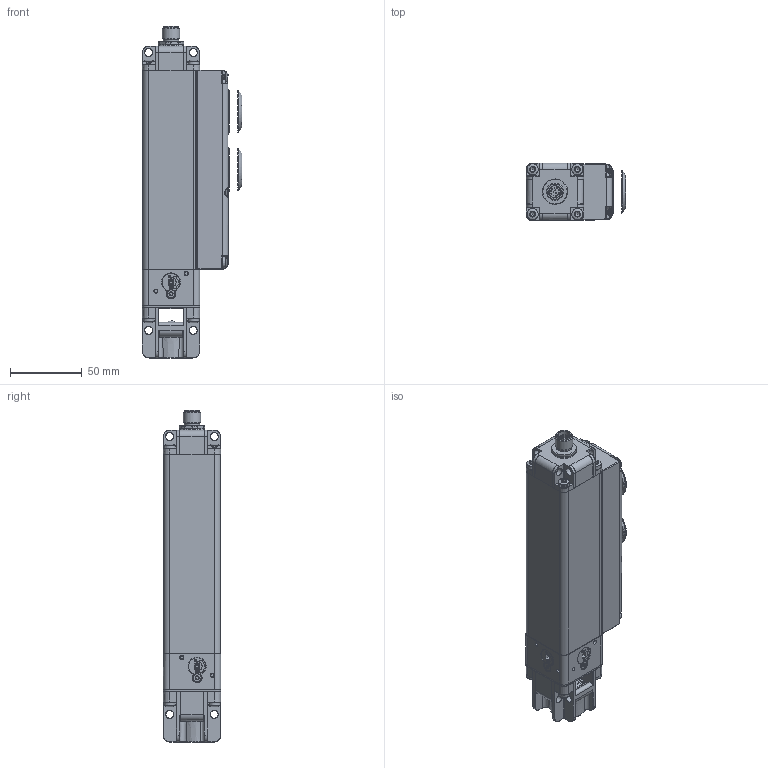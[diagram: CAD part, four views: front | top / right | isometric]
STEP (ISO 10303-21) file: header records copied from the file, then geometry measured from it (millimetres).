
FILE_DESCRIPTION(/* description */ (''),/* implementation_level */ '2;1');
FILE_NAME(/* name */ '2036735_A_PSENmg1-A-xxxxx-Lxxx-Sx.stp',/* time_stamp */ '2024-07-05T14:36:19+02:00',/* author */ ('rvet'),/* organization */ (''),/* preprocessor_version */ 'ST-DEVELOPER v20',/* originating_system */ 'Autodesk Inventor 2024',/* authorisation */ '');
FILE_SCHEMA (('AUTOMOTIVE_DESIGN { 1 0 10303 214 3 1 1 }'));
Products named in the file (1): 2036735
Bounding box: 69.25 x 40 x 231.2 mm (x, y, z)
Volume: 422873.6 mm3; surface area: 60632.3 mm2
Topology: 1 solids, 1 shells, 1914 faces, 4805 edges, 2927 vertices
Faces by surface type: cylinder 635, plane 442, bspline 335, cone 257, torus 184, sphere 61
Full cylindrical faces by diameter (mm): 0.6 x12, 2.693 x3, 3.1 x3, 5.5 x11, 8.2 x2, 8.3 x1, 9 x1, 10 x1, 10.5 x1, 10.6 x1, 12 x2, 12.15 x1, 16.1 x1, 17 x1, 19.85 x2, 20 x1, 22.642 x2, 28.6 x2, 29.2 x2
Entity records: 72914 total; most frequent: CARTESIAN_POINT 29180, ORIENTED_EDGE 9542, DIRECTION 8627, EDGE_CURVE 4771, AXIS2_PLACEMENT_3D 3482, VERTEX_POINT 2927, EDGE_LOOP 2028, FACE_OUTER_BOUND 1914
